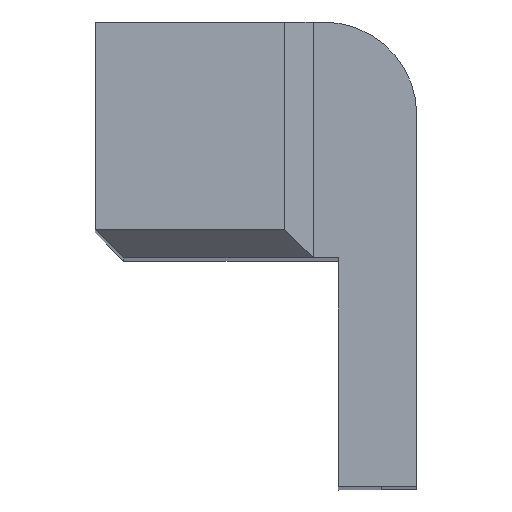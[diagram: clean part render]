
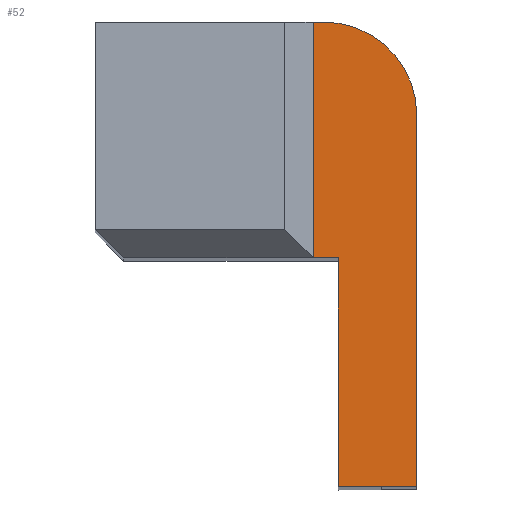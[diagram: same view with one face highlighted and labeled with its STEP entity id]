
A CAD part, top view. The second image highlights one B-rep face of the part: STEP entity #52.
In plain terms, the highlighted planar face has unit normal (0, 0, 1).
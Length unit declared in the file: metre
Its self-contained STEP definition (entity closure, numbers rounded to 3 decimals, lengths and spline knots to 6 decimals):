
#52 = ADVANCED_FACE( '', ( #113 ), #114, .F. );
#113 = FACE_OUTER_BOUND( '', #180, .T. );
#114 = PLANE( '', #181 );
#180 = EDGE_LOOP( '', ( #269, #270, #271, #272, #273, #274, #275 ) );
#181 = AXIS2_PLACEMENT_3D( '', #276, #277, #278 );
#269 = ORIENTED_EDGE( '', *, *, #431, .F. );
#270 = ORIENTED_EDGE( '', *, *, #424, .T. );
#271 = ORIENTED_EDGE( '', *, *, #419, .F. );
#272 = ORIENTED_EDGE( '', *, *, #432, .F. );
#273 = ORIENTED_EDGE( '', *, *, #433, .T. );
#274 = ORIENTED_EDGE( '', *, *, #434, .T. );
#275 = ORIENTED_EDGE( '', *, *, #435, .F. );
#276 = CARTESIAN_POINT( '', ( 0.029023, 500., 0.0612 ) );
#277 = DIRECTION( '', ( 0., 0., -1. ) );
#278 = DIRECTION( '', ( 0., 1., 0. ) );
#419 = EDGE_CURVE( '', #496, #498, #499, .T. );
#424 = EDGE_CURVE( '', #505, #498, #506, .T. );
#431 = EDGE_CURVE( '', #505, #515, #516, .T. );
#432 = EDGE_CURVE( '', #517, #496, #518, .T. );
#433 = EDGE_CURVE( '', #517, #519, #520, .T. );
#434 = EDGE_CURVE( '', #519, #521, #522, .T. );
#435 = EDGE_CURVE( '', #515, #521, #523, .T. );
#496 = VERTEX_POINT( '', #606 );
#498 = VERTEX_POINT( '', #609 );
#499 = LINE( '', #610, #611 );
#505 = VERTEX_POINT( '', #620 );
#506 = LINE( '', #621, #622 );
#515 = VERTEX_POINT( '', #635 );
#516 = LINE( '', #636, #637 );
#517 = VERTEX_POINT( '', #638 );
#518 = CIRCLE( '', #639, 0.0026 );
#519 = VERTEX_POINT( '', #640 );
#520 = LINE( '', #641, #642 );
#521 = VERTEX_POINT( '', #643 );
#522 = LINE( '', #644, #645 );
#523 = LINE( '', #646, #647 );
#606 = CARTESIAN_POINT( '', ( 0.0306, 0.01075, 0.0612 ) );
#609 = CARTESIAN_POINT( '', ( 0.0306, 0.00035, 0.0612 ) );
#610 = CARTESIAN_POINT( '', ( 0.0306, 500., 0.0612 ) );
#611 = VECTOR( '', #739, 1. );
#620 = CARTESIAN_POINT( '', ( 0.0284, 0.00035, 0.0612 ) );
#621 = CARTESIAN_POINT( '', ( 0.029023, 0.00035, 0.0612 ) );
#622 = VECTOR( '', #743, 1. );
#635 = CARTESIAN_POINT( '', ( 0.0284, 0.00675, 0.0612 ) );
#636 = CARTESIAN_POINT( '', ( 0.0284, 0.007662, 0.0612 ) );
#637 = VECTOR( '', #748, 1. );
#638 = CARTESIAN_POINT( '', ( 0.028, 0.01335, 0.0612 ) );
#639 = AXIS2_PLACEMENT_3D( '', #749, #750, #751 );
#640 = CARTESIAN_POINT( '', ( 0.0277, 0.01335, 0.0612 ) );
#641 = CARTESIAN_POINT( '', ( 0.029023, 0.01335, 0.0612 ) );
#642 = VECTOR( '', #752, 1. );
#643 = CARTESIAN_POINT( '', ( 0.0277, 0.00675, 0.0612 ) );
#644 = CARTESIAN_POINT( '', ( 0.0277, 500., 0.0612 ) );
#645 = VECTOR( '', #753, 1. );
#646 = CARTESIAN_POINT( '', ( 0.0216, 0.00675, 0.0612 ) );
#647 = VECTOR( '', #754, 1. );
#739 = DIRECTION( '', ( 0., -1., 0. ) );
#743 = DIRECTION( '', ( 1., 0., 0. ) );
#748 = DIRECTION( '', ( 0., 1., 0. ) );
#749 = CARTESIAN_POINT( '', ( 0.028, 0.01075, 0.0612 ) );
#750 = DIRECTION( '', ( 0., 0., -1. ) );
#751 = DIRECTION( '', ( 0., 1., 0. ) );
#752 = DIRECTION( '', ( -1., 0., 0. ) );
#753 = DIRECTION( '', ( 0., -1., 0. ) );
#754 = DIRECTION( '', ( -1., 0., 0. ) );
